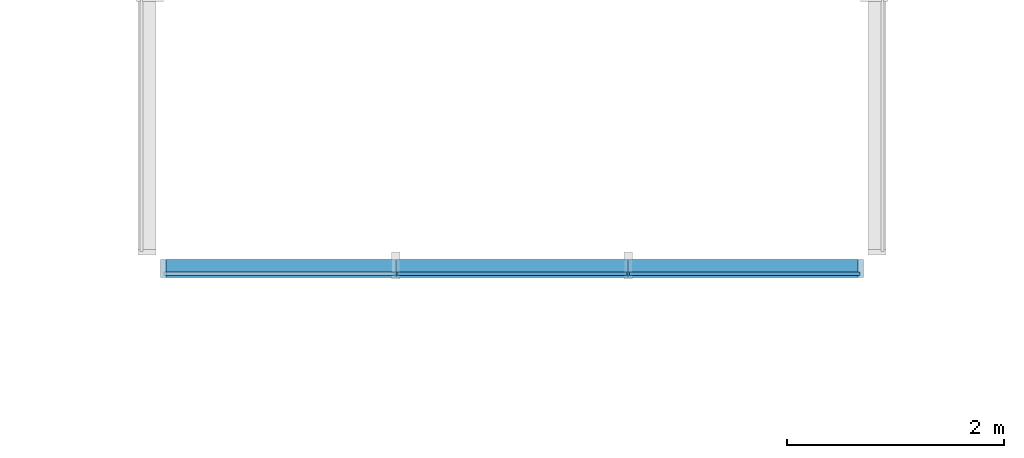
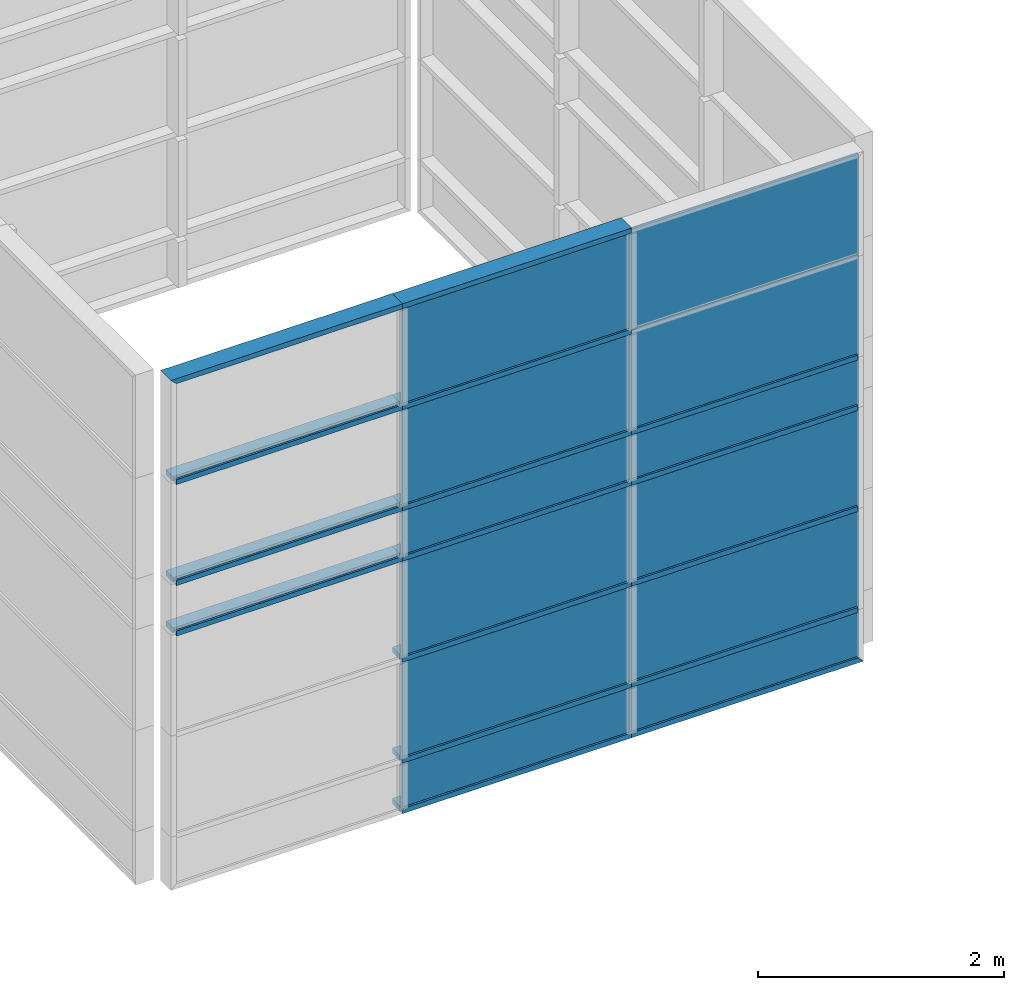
# One storey, part 6 of 19: 28 building element parts, 1 element without a shape of its own.
"""IFC4 building model written with IfcOpenShell, lengths in millimetres."""

from ifc_helpers import new_model, entity, si_unit, converted_unit, derived_unit, direction, frame, origin_with_axes, place, context, subcontext, project, spatial, triangles, material, element, aggregate, save


model = new_model("IFC4")

# Units and contexts
model_context = context("Model", 3, precision=1e-05, world=origin_with_axes(), true_north=direction((0.0, 1.0)))
body_context = subcontext(model_context, "Body", "Model", "MODEL_VIEW")
ifc_project = project(units=[si_unit("LENGTHUNIT", "METRE", prefix="MILLI"), si_unit("AREAUNIT", "SQUARE_METRE"), si_unit("VOLUMEUNIT", "CUBIC_METRE"), converted_unit("PLANEANGLEUNIT", "DEGREE", entity("IfcLengthMeasure", 0.017453), si_unit("PLANEANGLEUNIT", "RADIAN"), dimensions=[0, 0, 0, 0, 0, 0, 0]), si_unit("SOLIDANGLEUNIT", "STERADIAN"), si_unit("MASSUNIT", "GRAM"), si_unit("TIMEUNIT", "SECOND"), si_unit("THERMODYNAMICTEMPERATUREUNIT", "DEGREE_CELSIUS"), si_unit("LUMINOUSINTENSITYUNIT", "LUMEN"), si_unit("POWERUNIT", "WATT"), derived_unit("THERMALTRANSMITTANCEUNIT", [(si_unit("POWERUNIT", "WATT"), 1), (si_unit("THERMODYNAMICTEMPERATUREUNIT", "KELVIN"), -1), (si_unit("AREAUNIT", "SQUARE_METRE"), -1)])], contexts=[model_context])

# Site, building, storey
site_placement = place(None, origin_with_axes())
site = spatial("IfcSite", under=ifc_project, at=site_placement, Name="Default Site", CompositionType="ELEMENT")
building_placement = place(site_placement, origin_with_axes())
building = spatial("IfcBuilding", under=site, at=building_placement, Name="Default Building", CompositionType="ELEMENT")
storey_placement = place(building_placement, frame((0.0, 0.0, 3000.0), z_axis=(0.0, 0.0, 1.0), x_axis=(1.0, 0.0, 0.0)))
storey = spatial("IfcBuildingStorey", under=building, at=storey_placement, Name="EG - Story", CompositionType="ELEMENT", Elevation=3000.0)

# Curtain wall, building element parts
curtain_wall_placement = place(storey_placement, origin_with_axes())
curtain_wall = element("IfcCurtainWall", 1, at=curtain_wall_placement, inside=storey, Name="Fassade-010", PredefinedType="NOTDEFINED")
ifc_material_1 = material(Name="Normalglas")
building_element_part_1_placement = place(curtain_wall_placement, frame((70654.39916, -49972.947966, -4.5e-05), z_axis=(0.0, 0.0, 1.0), x_axis=(1.0, 0.0, 0.0)))
building_element_part_1 = element("IfcBuildingElementPart", 2, at=building_element_part_1_placement, material=ifc_material_1, Name="Normalglas", PredefinedType="NOTDEFINED", context=body_context, shape_type="Tessellation", body=[
    triangles([(3209.024, 15.0, 495.0), (1083.008, 15.0, 495.0), (1083.008, -14.999, 495.0), (3209.024, -14.999, 495.0), (3209.024, 15.0, 5.0), (1083.008, 15.0, 5.0), (1083.008, -14.999, 5.0), (3209.024, -14.999, 5.0)], [[1, 2, 3], [1, 3, 4], [1, 5, 6], [1, 6, 2], [2, 6, 7], [2, 7, 3], [4, 3, 7], [4, 7, 8], [5, 1, 4], [5, 4, 8], [6, 5, 8], [6, 8, 7]], closed=False),
])
building_element_part_2_placement = place(curtain_wall_placement, frame((70654.39916, -49972.947966, -4.5e-05), z_axis=(0.0, 0.0, 1.0), x_axis=(1.0, 0.0, 0.0)))
building_element_part_2 = element("IfcBuildingElementPart", 3, at=building_element_part_2_placement, material=ifc_material_1, Name="Normalglas", PredefinedType="NOTDEFINED", context=body_context, shape_type="Tessellation", body=[
    triangles([(5360.039, 15.0, 495.0), (3229.023, 15.0, 495.0), (3229.023, -14.999, 495.0), (5360.039, -14.999, 495.0), (5360.039, 15.0, 5.0), (3229.023, 15.0, 5.0), (3229.023, -14.999, 5.0), (5360.039, -14.999, 5.0)], [[1, 2, 3], [1, 3, 4], [1, 5, 6], [1, 6, 2], [2, 6, 7], [2, 7, 3], [4, 3, 7], [4, 7, 8], [5, 1, 4], [5, 4, 8], [6, 5, 8], [6, 8, 7]], closed=False),
])
building_element_part_3_placement = place(curtain_wall_placement, frame((70654.39916, -49972.947966, -4.5e-05), z_axis=(0.0, 0.0, 1.0), x_axis=(1.0, 0.0, 0.0)))
building_element_part_3 = element("IfcBuildingElementPart", 4, at=building_element_part_3_placement, material=ifc_material_1, Name="Normalglas", PredefinedType="NOTDEFINED", context=body_context, shape_type="Tessellation", body=[
    triangles([(3209.024, 15.0, 1495.0), (1083.008, 15.0, 1495.0), (1083.008, -14.999, 1495.0), (3209.024, -14.999, 1495.0), (3209.024, 15.0, 505.0), (1083.008, 15.0, 505.0), (1083.008, -14.999, 505.0), (3209.024, -14.999, 505.0)], [[1, 2, 3], [1, 3, 4], [1, 5, 6], [1, 6, 2], [2, 6, 7], [2, 7, 3], [4, 3, 7], [4, 7, 8], [5, 1, 4], [5, 4, 8], [6, 5, 8], [6, 8, 7]], closed=False),
])
building_element_part_4_placement = place(curtain_wall_placement, frame((70654.39916, -49972.947966, -4.5e-05), z_axis=(0.0, 0.0, 1.0), x_axis=(1.0, 0.0, 0.0)))
building_element_part_4 = element("IfcBuildingElementPart", 5, at=building_element_part_4_placement, material=ifc_material_1, Name="Normalglas", PredefinedType="NOTDEFINED", context=body_context, shape_type="Tessellation", body=[
    triangles([(5360.039, 15.0, 1495.0), (3229.023, 15.0, 1495.0), (3229.023, -14.999, 1495.0), (5360.039, -14.999, 1495.0), (5360.039, 15.0, 505.0), (3229.023, 15.0, 505.0), (3229.023, -14.999, 505.0), (5360.039, -14.999, 505.0)], [[1, 2, 3], [1, 3, 4], [1, 5, 6], [1, 6, 2], [2, 6, 7], [2, 7, 3], [4, 3, 7], [4, 7, 8], [5, 1, 4], [5, 4, 8], [6, 5, 8], [6, 8, 7]], closed=False),
])
building_element_part_5_placement = place(curtain_wall_placement, frame((70654.39916, -49972.947966, -4.5e-05), z_axis=(0.0, 0.0, 1.0), x_axis=(1.0, 0.0, 0.0)))
building_element_part_5 = element("IfcBuildingElementPart", 6, at=building_element_part_5_placement, material=ifc_material_1, Name="Normalglas", PredefinedType="NOTDEFINED", context=body_context, shape_type="Tessellation", body=[
    triangles([(3209.024, 15.0, 2495.0), (1083.008, 15.0, 2495.0), (1083.008, -14.999, 2495.0), (3209.024, -14.999, 2495.0), (3209.024, 15.0, 1505.0), (1083.008, 15.0, 1505.0), (1083.008, -14.999, 1505.0), (3209.024, -14.999, 1505.0)], [[1, 2, 3], [1, 3, 4], [1, 5, 6], [1, 6, 2], [2, 6, 7], [2, 7, 3], [4, 3, 7], [4, 7, 8], [5, 1, 4], [5, 4, 8], [6, 5, 8], [6, 8, 7]], closed=False),
])
building_element_part_6_placement = place(curtain_wall_placement, frame((70654.39916, -49972.947966, -4.5e-05), z_axis=(0.0, 0.0, 1.0), x_axis=(1.0, 0.0, 0.0)))
building_element_part_6 = element("IfcBuildingElementPart", 7, at=building_element_part_6_placement, material=ifc_material_1, Name="Normalglas", PredefinedType="NOTDEFINED", context=body_context, shape_type="Tessellation", body=[
    triangles([(5360.039, 15.0, 2495.0), (3229.023, 15.0, 2495.0), (3229.023, -14.999, 2495.0), (5360.039, -14.999, 2495.0), (5360.039, 15.0, 1505.0), (3229.023, 15.0, 1505.0), (3229.023, -14.999, 1505.0), (5360.039, -14.999, 1505.0)], [[1, 2, 3], [1, 3, 4], [1, 5, 6], [1, 6, 2], [2, 6, 7], [2, 7, 3], [4, 3, 7], [4, 7, 8], [5, 1, 4], [5, 4, 8], [6, 5, 8], [6, 8, 7]], closed=False),
])
building_element_part_7_placement = place(curtain_wall_placement, frame((70654.39916, -49972.947966, -4.5e-05), z_axis=(0.0, 0.0, 1.0), x_axis=(1.0, 0.0, 0.0)))
building_element_part_7 = element("IfcBuildingElementPart", 8, at=building_element_part_7_placement, material=ifc_material_1, Name="Normalglas", PredefinedType="NOTDEFINED", context=body_context, shape_type="Tessellation", body=[
    triangles([(3209.024, 15.0, 2995.0), (1083.008, 15.0, 2995.0), (1083.008, -14.999, 2995.0), (3209.024, -14.999, 2995.0), (3209.024, 15.0, 2505.0), (1083.008, 15.0, 2505.0), (1083.008, -14.999, 2505.0), (3209.024, -14.999, 2505.0)], [[1, 2, 3], [1, 3, 4], [1, 5, 6], [1, 6, 2], [2, 6, 7], [2, 7, 3], [4, 3, 7], [4, 7, 8], [5, 1, 4], [5, 4, 8], [6, 5, 8], [6, 8, 7]], closed=False),
])
building_element_part_8_placement = place(curtain_wall_placement, frame((70654.39916, -49972.947966, -4.5e-05), z_axis=(0.0, 0.0, 1.0), x_axis=(1.0, 0.0, 0.0)))
building_element_part_8 = element("IfcBuildingElementPart", 9, at=building_element_part_8_placement, material=ifc_material_1, Name="Normalglas", PredefinedType="NOTDEFINED", context=body_context, shape_type="Tessellation", body=[
    triangles([(5360.039, 15.0, 2995.0), (3229.023, 15.0, 2995.0), (3229.023, -14.999, 2995.0), (5360.039, -14.999, 2995.0), (5360.039, 15.0, 2505.0), (3229.023, 15.0, 2505.0), (3229.023, -14.999, 2505.0), (5360.039, -14.999, 2505.0)], [[1, 2, 3], [1, 3, 4], [1, 5, 6], [1, 6, 2], [2, 6, 7], [2, 7, 3], [4, 3, 7], [4, 7, 8], [5, 1, 4], [5, 4, 8], [6, 5, 8], [6, 8, 7]], closed=False),
])
building_element_part_9_placement = place(curtain_wall_placement, frame((70654.39916, -49972.947966, -4.5e-05), z_axis=(0.0, 0.0, 1.0), x_axis=(1.0, 0.0, 0.0)))
building_element_part_9 = element("IfcBuildingElementPart", 10, at=building_element_part_9_placement, material=ifc_material_1, Name="Normalglas", PredefinedType="NOTDEFINED", context=body_context, shape_type="Tessellation", body=[
    triangles([(3209.024, 15.0, 3995.0), (1083.008, 15.0, 3995.0), (1083.008, -14.999, 3995.0), (3209.024, -14.999, 3995.0), (3209.024, 15.0, 3005.0), (1083.008, 15.0, 3005.0), (1083.008, -14.999, 3005.0), (3209.024, -14.999, 3005.0)], [[1, 2, 3], [1, 3, 4], [1, 5, 6], [1, 6, 2], [2, 6, 7], [2, 7, 3], [4, 3, 7], [4, 7, 8], [5, 1, 4], [5, 4, 8], [6, 5, 8], [6, 8, 7]], closed=False),
])
building_element_part_10_placement = place(curtain_wall_placement, frame((70654.39916, -49972.947966, -4.5e-05), z_axis=(0.0, 0.0, 1.0), x_axis=(1.0, 0.0, 0.0)))
building_element_part_10 = element("IfcBuildingElementPart", 11, at=building_element_part_10_placement, material=ifc_material_1, Name="Normalglas", PredefinedType="NOTDEFINED", context=body_context, shape_type="Tessellation", body=[
    triangles([(5360.039, 15.0, 3995.0), (3229.023, 15.0, 3995.0), (3229.023, -14.999, 3995.0), (5360.039, -14.999, 3995.0), (5360.039, 15.0, 3005.0), (3229.023, 15.0, 3005.0), (3229.023, -14.999, 3005.0), (5360.039, -14.999, 3005.0)], [[1, 2, 3], [1, 3, 4], [1, 5, 6], [1, 6, 2], [2, 6, 7], [2, 7, 3], [4, 3, 7], [4, 7, 8], [5, 1, 4], [5, 4, 8], [6, 5, 8], [6, 8, 7]], closed=False),
])
building_element_part_11_placement = place(curtain_wall_placement, frame((70654.39916, -49972.947966, -4.5e-05), z_axis=(0.0, 0.0, 1.0), x_axis=(1.0, 0.0, 0.0)))
building_element_part_11 = element("IfcBuildingElementPart", 12, at=building_element_part_11_placement, material=ifc_material_1, Name="Normalglas", PredefinedType="NOTDEFINED", context=body_context, shape_type="Tessellation", body=[
    triangles([(3209.024, 15.0, 4995.0), (1083.008, 15.0, 4995.0), (1083.008, -14.999, 4995.0), (3209.024, -14.999, 4995.0), (3209.024, 15.0, 4005.0), (1083.008, 15.0, 4005.0), (1083.008, -14.999, 4005.0), (3209.024, -14.999, 4005.0)], [[1, 2, 3], [1, 3, 4], [1, 5, 6], [1, 6, 2], [2, 6, 7], [2, 7, 3], [4, 3, 7], [4, 7, 8], [5, 1, 4], [5, 4, 8], [6, 5, 8], [6, 8, 7]], closed=False),
])
building_element_part_12_placement = place(curtain_wall_placement, frame((70654.39916, -49972.947966, -4.5e-05), z_axis=(0.0, 0.0, 1.0), x_axis=(1.0, 0.0, 0.0)))
building_element_part_12 = element("IfcBuildingElementPart", 13, at=building_element_part_12_placement, material=ifc_material_1, Name="Normalglas", PredefinedType="NOTDEFINED", context=body_context, shape_type="Tessellation", body=[
    triangles([(5360.039, 15.0, 4995.0), (3229.023, 15.0, 4995.0), (3229.023, -14.999, 4995.0), (5360.039, -14.999, 4995.0), (5360.039, 15.0, 4005.0), (3229.023, 15.0, 4005.0), (3229.023, -14.999, 4005.0), (5360.039, -14.999, 4005.0)], [[1, 2, 3], [1, 3, 4], [1, 5, 6], [1, 6, 2], [2, 6, 7], [2, 7, 3], [4, 3, 7], [4, 7, 8], [5, 1, 4], [5, 4, 8], [6, 5, 8], [6, 8, 7]], closed=False),
])
ifc_material_2 = material(Name="Blech")
building_element_part_13_placement = place(curtain_wall_placement, frame((70654.39916, -49972.947966, -4.5e-05), z_axis=(0.0, 0.0, 1.0), x_axis=(1.0, 0.0, 0.0)))
building_element_part_13 = element("IfcBuildingElementPart", 14, at=building_element_part_13_placement, material=ifc_material_2, Name="Blech", PredefinedType="NOTDEFINED", context=body_context, shape_type="Tessellation", body=[
    triangles([(3219.023, 15.0, 25.0), (3219.023, 133.0, 25.0), (3219.023, 15.0, 5.0), (3219.023, 133.0, -24.999), (3219.023, -14.999, 5.0), (3219.023, -34.999, -24.999), (3219.023, -14.999, 25.0), (3219.023, -34.999, 25.0), (1073.008, 15.0, 5.0), (1073.008, -14.999, 5.0), (1073.008, -14.999, 25.0), (1073.008, -34.999, 25.0), (1073.008, -34.999, -24.999), (1073.008, 133.0, -24.999), (1073.008, 133.0, 25.0), (1073.008, 15.0, 25.0)], [[1, 2, 3], [3, 2, 4], [3, 4, 5], [5, 4, 6], [5, 6, 7], [7, 6, 8], [5, 3, 9], [5, 9, 10], [11, 7, 5], [11, 5, 10], [7, 11, 12], [7, 12, 8], [13, 6, 8], [13, 8, 12], [14, 4, 6], [14, 6, 13], [15, 2, 4], [15, 4, 14], [16, 1, 2], [16, 2, 15], [3, 1, 16], [3, 16, 9], [16, 15, 9], [9, 15, 14], [9, 14, 10], [10, 14, 13], [10, 13, 11], [11, 13, 12]], closed=False),
])
building_element_part_14_placement = place(curtain_wall_placement, frame((70654.39916, -49972.947966, -4.5e-05), z_axis=(0.0, 0.0, 1.0), x_axis=(1.0, 0.0, 0.0)))
building_element_part_14 = element("IfcBuildingElementPart", 15, at=building_element_part_14_placement, material=ifc_material_2, Name="Blech", PredefinedType="NOTDEFINED", context=body_context, shape_type="Tessellation", body=[
    triangles([(5360.039, -14.999, 5.0), (5360.039, 15.0, 5.0), (5390.039, 133.0, -24.999), (5390.039, -34.999, -24.999), (5340.039, -34.999, 25.0), (5340.039, -14.999, 25.0), (5340.039, 15.0, 25.0), (5340.039, 133.0, 25.0), (3219.023, 15.0, 5.0), (3219.023, -14.999, 5.0), (3219.023, -14.999, 25.0), (3219.023, -34.999, 25.0), (3219.023, -34.999, -24.999), (3219.023, 133.0, -24.999), (3219.023, 133.0, 25.0), (3219.023, 15.0, 25.0)], [[1, 2, 3], [1, 3, 4], [1, 4, 5], [1, 5, 6], [7, 8, 3], [7, 3, 2], [1, 2, 9], [1, 9, 10], [11, 6, 1], [11, 1, 10], [6, 11, 12], [6, 12, 5], [13, 4, 5], [13, 5, 12], [14, 3, 4], [14, 4, 13], [15, 8, 3], [15, 3, 14], [16, 7, 8], [16, 8, 15], [2, 7, 16], [2, 16, 9], [16, 15, 9], [9, 15, 14], [9, 14, 10], [10, 14, 13], [10, 13, 11], [11, 13, 12]], closed=False),
])
building_element_part_15_placement = place(curtain_wall_placement, frame((70654.39916, -49972.947966, -4.5e-05), z_axis=(0.0, 0.0, 1.0), x_axis=(1.0, 0.0, 0.0)))
building_element_part_15 = element("IfcBuildingElementPart", 16, at=building_element_part_15_placement, material=ifc_material_2, Name="Blech", PredefinedType="NOTDEFINED", context=body_context, shape_type="Tessellation", body=[
    triangles([(3219.023, 133.0, 525.0), (3219.023, 15.0, 525.0), (3219.023, 133.0, 475.0), (3219.023, 15.0, 505.0), (3219.023, 15.0, 495.0), (3219.023, -14.999, 505.0), (3219.023, -14.999, 495.0), (3219.023, -14.999, 475.0), (3219.023, -14.999, 525.0), (3219.023, -34.999, 525.0), (3219.023, -34.999, 475.0), (3219.023, 15.0, 475.0), (1073.008, 15.0, 495.0), (1073.008, 15.0, 475.0), (1073.008, 133.0, 475.0), (1073.008, 133.0, 525.0), (1073.008, 15.0, 525.0), (1073.008, 15.0, 505.0), (1073.008, -14.999, 505.0), (1073.008, -14.999, 525.0), (1073.008, -34.999, 525.0), (1073.008, -34.999, 475.0), (1073.008, -14.999, 475.0), (1073.008, -14.999, 495.0)], [[1, 2, 3], [3, 2, 4], [3, 4, 5], [5, 4, 6], [5, 6, 7], [8, 9, 10], [8, 10, 11], [3, 5, 12], [12, 5, 13], [12, 13, 14], [12, 14, 15], [12, 15, 3], [1, 3, 15], [1, 15, 16], [2, 1, 16], [2, 16, 17], [2, 17, 18], [2, 18, 4], [4, 18, 19], [4, 19, 6], [9, 6, 19], [9, 19, 20], [20, 21, 10], [20, 10, 9], [11, 10, 21], [11, 21, 22], [23, 8, 11], [23, 11, 22], [7, 8, 23], [7, 23, 24], [5, 7, 24], [5, 24, 13], [15, 14, 16], [16, 14, 13], [16, 13, 18], [18, 13, 24], [18, 24, 19], [20, 23, 22], [20, 22, 21], [16, 18, 17]], closed=False),
])
building_element_part_16_placement = place(curtain_wall_placement, frame((70654.39916, -49972.947966, -4.5e-05), z_axis=(0.0, 0.0, 1.0), x_axis=(1.0, 0.0, 0.0)))
building_element_part_16 = element("IfcBuildingElementPart", 17, at=building_element_part_16_placement, material=ifc_material_2, Name="Blech", PredefinedType="NOTDEFINED", context=body_context, shape_type="Tessellation", body=[
    triangles([(5340.039, 133.0, 525.0), (5340.039, 15.0, 525.0), (5340.039, 133.0, 475.0), (5340.039, 15.0, 505.0), (5340.039, 15.0, 495.0), (5340.039, -14.999, 505.0), (5340.039, -14.999, 495.0), (5340.039, -14.999, 475.0), (5340.039, -14.999, 525.0), (5340.039, -34.999, 525.0), (5340.039, -34.999, 475.0), (5340.039, 15.0, 475.0), (3219.023, 15.0, 495.0), (3219.023, 15.0, 475.0), (3219.023, 133.0, 475.0), (3219.023, 133.0, 525.0), (3219.023, 15.0, 525.0), (3219.023, 15.0, 505.0), (3219.023, -14.999, 505.0), (3219.023, -14.999, 525.0), (3219.023, -34.999, 525.0), (3219.023, -34.999, 475.0), (3219.023, -14.999, 475.0), (3219.023, -14.999, 495.0)], [[1, 2, 3], [3, 2, 4], [3, 4, 5], [5, 4, 6], [5, 6, 7], [8, 9, 10], [8, 10, 11], [3, 5, 12], [12, 5, 13], [12, 13, 14], [12, 14, 15], [12, 15, 3], [1, 3, 15], [1, 15, 16], [2, 1, 16], [2, 16, 17], [2, 17, 18], [2, 18, 4], [4, 18, 19], [4, 19, 6], [9, 6, 19], [9, 19, 20], [20, 21, 10], [20, 10, 9], [11, 10, 21], [11, 21, 22], [23, 8, 11], [23, 11, 22], [7, 8, 23], [7, 23, 24], [5, 7, 24], [5, 24, 13], [15, 14, 16], [16, 14, 13], [16, 13, 18], [18, 13, 24], [18, 24, 19], [20, 23, 22], [20, 22, 21], [16, 18, 17]], closed=False),
])
building_element_part_17_placement = place(curtain_wall_placement, frame((70654.39916, -49972.947966, -4.5e-05), z_axis=(0.0, 0.0, 1.0), x_axis=(1.0, 0.0, 0.0)))
building_element_part_17 = element("IfcBuildingElementPart", 18, at=building_element_part_17_placement, material=ifc_material_2, Name="Blech", PredefinedType="NOTDEFINED", context=body_context, shape_type="Tessellation", body=[
    triangles([(3219.023, 133.0, 1525.0), (3219.023, 15.0, 1525.0), (3219.023, 133.0, 1475.0), (3219.023, 15.0, 1505.0), (3219.023, 15.0, 1495.0), (3219.023, -14.999, 1505.0), (3219.023, -14.999, 1495.0), (3219.023, -14.999, 1475.0), (3219.023, -14.999, 1525.0), (3219.023, -34.999, 1525.0), (3219.023, -34.999, 1475.0), (3219.023, 15.0, 1475.0), (1073.008, 15.0, 1495.0), (1073.008, 15.0, 1475.0), (1073.008, 133.0, 1475.0), (1073.008, 133.0, 1525.0), (1073.008, 15.0, 1525.0), (1073.008, 15.0, 1505.0), (1073.008, -14.999, 1505.0), (1073.008, -14.999, 1525.0), (1073.008, -34.999, 1525.0), (1073.008, -34.999, 1475.0), (1073.008, -14.999, 1475.0), (1073.008, -14.999, 1495.0)], [[1, 2, 3], [3, 2, 4], [3, 4, 5], [5, 4, 6], [5, 6, 7], [8, 9, 10], [8, 10, 11], [3, 5, 12], [12, 5, 13], [12, 13, 14], [12, 14, 15], [12, 15, 3], [1, 3, 15], [1, 15, 16], [2, 1, 16], [2, 16, 17], [2, 17, 18], [2, 18, 4], [4, 18, 19], [4, 19, 6], [9, 6, 19], [9, 19, 20], [20, 21, 10], [20, 10, 9], [11, 10, 21], [11, 21, 22], [23, 8, 11], [23, 11, 22], [7, 8, 23], [7, 23, 24], [5, 7, 24], [5, 24, 13], [15, 14, 16], [16, 14, 13], [16, 13, 18], [18, 13, 24], [18, 24, 19], [20, 23, 22], [20, 22, 21], [16, 18, 17]], closed=False),
])
building_element_part_18_placement = place(curtain_wall_placement, frame((70654.39916, -49972.947966, -4.5e-05), z_axis=(0.0, 0.0, 1.0), x_axis=(1.0, 0.0, 0.0)))
building_element_part_18 = element("IfcBuildingElementPart", 19, at=building_element_part_18_placement, material=ifc_material_2, Name="Blech", PredefinedType="NOTDEFINED", context=body_context, shape_type="Tessellation", body=[
    triangles([(5340.039, 133.0, 1525.0), (5340.039, 15.0, 1525.0), (5340.039, 133.0, 1475.0), (5340.039, 15.0, 1505.0), (5340.039, 15.0, 1495.0), (5340.039, -14.999, 1505.0), (5340.039, -14.999, 1495.0), (5340.039, -14.999, 1475.0), (5340.039, -14.999, 1525.0), (5340.039, -34.999, 1525.0), (5340.039, -34.999, 1475.0), (5340.039, 15.0, 1475.0), (3219.023, 15.0, 1495.0), (3219.023, 15.0, 1475.0), (3219.023, 133.0, 1475.0), (3219.023, 133.0, 1525.0), (3219.023, 15.0, 1525.0), (3219.023, 15.0, 1505.0), (3219.023, -14.999, 1505.0), (3219.023, -14.999, 1525.0), (3219.023, -34.999, 1525.0), (3219.023, -34.999, 1475.0), (3219.023, -14.999, 1475.0), (3219.023, -14.999, 1495.0)], [[1, 2, 3], [3, 2, 4], [3, 4, 5], [5, 4, 6], [5, 6, 7], [8, 9, 10], [8, 10, 11], [3, 5, 12], [12, 5, 13], [12, 13, 14], [12, 14, 15], [12, 15, 3], [1, 3, 15], [1, 15, 16], [2, 1, 16], [2, 16, 17], [2, 17, 18], [2, 18, 4], [4, 18, 19], [4, 19, 6], [9, 6, 19], [9, 19, 20], [20, 21, 10], [20, 10, 9], [11, 10, 21], [11, 21, 22], [23, 8, 11], [23, 11, 22], [7, 8, 23], [7, 23, 24], [5, 7, 24], [5, 24, 13], [15, 14, 16], [16, 14, 13], [16, 13, 18], [18, 13, 24], [18, 24, 19], [20, 23, 22], [20, 22, 21], [16, 18, 17]], closed=False),
])
building_element_part_19_placement = place(curtain_wall_placement, frame((70654.39916, -49972.947966, -4.5e-05), z_axis=(0.0, 0.0, 1.0), x_axis=(1.0, 0.0, 0.0)))
building_element_part_19 = element("IfcBuildingElementPart", 20, at=building_element_part_19_placement, material=ifc_material_2, Name="Blech", PredefinedType="NOTDEFINED", context=body_context, shape_type="Tessellation", body=[
    triangles([(1073.008, 133.0, 2525.0), (1073.008, 15.0, 2525.0), (1073.008, 133.0, 2475.0), (1073.008, 15.0, 2505.0), (1073.008, 15.0, 2495.0), (1073.008, -14.999, 2505.0), (1073.008, -14.999, 2495.0), (1073.008, -14.999, 2475.0), (1073.008, -14.999, 2525.0), (1073.008, -34.999, 2525.0), (1073.008, -34.999, 2475.0), (1073.008, 15.0, 2475.0), (-1048.007, 15.0, 2495.0), (-1048.007, 15.0, 2475.0), (-1048.007, 133.0, 2475.0), (-1048.007, 133.0, 2525.0), (-1048.007, 15.0, 2525.0), (-1048.007, 15.0, 2505.0), (-1048.007, -14.999, 2505.0), (-1048.007, -14.999, 2525.0), (-1048.007, -34.999, 2525.0), (-1048.007, -34.999, 2475.0), (-1048.007, -14.999, 2475.0), (-1048.007, -14.999, 2495.0)], [[1, 2, 3], [3, 2, 4], [3, 4, 5], [5, 4, 6], [5, 6, 7], [8, 9, 10], [8, 10, 11], [3, 5, 12], [12, 5, 13], [12, 13, 14], [12, 14, 15], [12, 15, 3], [3, 15, 16], [3, 16, 1], [2, 1, 16], [2, 16, 17], [2, 17, 18], [2, 18, 4], [4, 18, 19], [4, 19, 6], [9, 6, 19], [9, 19, 20], [20, 21, 10], [20, 10, 9], [10, 21, 22], [10, 22, 11], [23, 8, 11], [23, 11, 22], [7, 8, 23], [7, 23, 24], [5, 7, 24], [5, 24, 13], [15, 14, 16], [16, 14, 13], [16, 13, 18], [18, 13, 24], [18, 24, 19], [20, 23, 22], [20, 22, 21], [16, 18, 17]], closed=False),
])
building_element_part_20_placement = place(curtain_wall_placement, frame((70654.39916, -49972.947966, -4.5e-05), z_axis=(0.0, 0.0, 1.0), x_axis=(1.0, 0.0, 0.0)))
building_element_part_20 = element("IfcBuildingElementPart", 21, at=building_element_part_20_placement, material=ifc_material_2, Name="Blech", PredefinedType="NOTDEFINED", context=body_context, shape_type="Tessellation", body=[
    triangles([(3219.023, 133.0, 2525.0), (3219.023, 15.0, 2525.0), (3219.023, 133.0, 2475.0), (3219.023, 15.0, 2505.0), (3219.023, 15.0, 2495.0), (3219.023, -14.999, 2505.0), (3219.023, -14.999, 2495.0), (3219.023, -14.999, 2475.0), (3219.023, -14.999, 2525.0), (3219.023, -34.999, 2525.0), (3219.023, -34.999, 2475.0), (3219.023, 15.0, 2475.0), (1073.008, 15.0, 2495.0), (1073.008, 15.0, 2475.0), (1073.008, 133.0, 2475.0), (1073.008, 133.0, 2525.0), (1073.008, 15.0, 2525.0), (1073.008, 15.0, 2505.0), (1073.008, -14.999, 2505.0), (1073.008, -14.999, 2525.0), (1073.008, -34.999, 2525.0), (1073.008, -34.999, 2475.0), (1073.008, -14.999, 2475.0), (1073.008, -14.999, 2495.0)], [[1, 2, 3], [3, 2, 4], [3, 4, 5], [5, 4, 6], [5, 6, 7], [8, 9, 10], [8, 10, 11], [3, 5, 12], [12, 5, 13], [12, 13, 14], [12, 14, 15], [12, 15, 3], [1, 3, 15], [1, 15, 16], [2, 1, 16], [2, 16, 17], [2, 17, 18], [2, 18, 4], [4, 18, 19], [4, 19, 6], [9, 6, 19], [9, 19, 20], [20, 21, 10], [20, 10, 9], [11, 10, 21], [11, 21, 22], [23, 8, 11], [23, 11, 22], [7, 8, 23], [7, 23, 24], [5, 7, 24], [5, 24, 13], [15, 14, 16], [16, 14, 13], [16, 13, 18], [18, 13, 24], [18, 24, 19], [20, 23, 22], [20, 22, 21], [16, 18, 17]], closed=False),
])
building_element_part_21_placement = place(curtain_wall_placement, frame((70654.39916, -49972.947966, -4.5e-05), z_axis=(0.0, 0.0, 1.0), x_axis=(1.0, 0.0, 0.0)))
building_element_part_21 = element("IfcBuildingElementPart", 22, at=building_element_part_21_placement, material=ifc_material_2, Name="Blech", PredefinedType="NOTDEFINED", context=body_context, shape_type="Tessellation", body=[
    triangles([(5340.039, 133.0, 2525.0), (5340.039, 15.0, 2525.0), (5340.039, 133.0, 2475.0), (5340.039, 15.0, 2505.0), (5340.039, 15.0, 2495.0), (5340.039, -14.999, 2505.0), (5340.039, -14.999, 2495.0), (5340.039, -14.999, 2475.0), (5340.039, -14.999, 2525.0), (5340.039, -34.999, 2525.0), (5340.039, -34.999, 2475.0), (5340.039, 15.0, 2475.0), (3219.023, 15.0, 2495.0), (3219.023, 15.0, 2475.0), (3219.023, 133.0, 2475.0), (3219.023, 133.0, 2525.0), (3219.023, 15.0, 2525.0), (3219.023, 15.0, 2505.0), (3219.023, -14.999, 2505.0), (3219.023, -14.999, 2525.0), (3219.023, -34.999, 2525.0), (3219.023, -34.999, 2475.0), (3219.023, -14.999, 2475.0), (3219.023, -14.999, 2495.0)], [[1, 2, 3], [3, 2, 4], [3, 4, 5], [5, 4, 6], [5, 6, 7], [8, 9, 10], [8, 10, 11], [3, 5, 12], [12, 5, 13], [12, 13, 14], [12, 14, 15], [12, 15, 3], [1, 3, 15], [1, 15, 16], [2, 1, 16], [2, 16, 17], [2, 17, 18], [2, 18, 4], [4, 18, 19], [4, 19, 6], [9, 6, 19], [9, 19, 20], [20, 21, 10], [20, 10, 9], [11, 10, 21], [11, 21, 22], [23, 8, 11], [23, 11, 22], [7, 8, 23], [7, 23, 24], [5, 7, 24], [5, 24, 13], [15, 14, 16], [16, 14, 13], [16, 13, 18], [18, 13, 24], [18, 24, 19], [20, 23, 22], [20, 22, 21], [16, 18, 17]], closed=False),
])
building_element_part_22_placement = place(curtain_wall_placement, frame((70654.39916, -49972.947966, -4.5e-05), z_axis=(0.0, 0.0, 1.0), x_axis=(1.0, 0.0, 0.0)))
building_element_part_22 = element("IfcBuildingElementPart", 23, at=building_element_part_22_placement, material=ifc_material_2, Name="Blech", PredefinedType="NOTDEFINED", context=body_context, shape_type="Tessellation", body=[
    triangles([(1073.008, 133.0, 3025.0), (1073.008, 15.0, 3025.0), (1073.008, 133.0, 2975.0), (1073.008, 15.0, 3005.0), (1073.008, 15.0, 2995.0), (1073.008, -14.999, 3005.0), (1073.008, -14.999, 2995.0), (1073.008, -14.999, 2975.0), (1073.008, -14.999, 3025.0), (1073.008, -34.999, 3025.0), (1073.008, -34.999, 2975.0), (1073.008, 15.0, 2975.0), (-1048.007, 15.0, 2995.0), (-1048.007, 15.0, 2975.0), (-1048.007, 133.0, 2975.0), (-1048.007, 133.0, 3025.0), (-1048.007, 15.0, 3025.0), (-1048.007, 15.0, 3005.0), (-1048.007, -14.999, 3005.0), (-1048.007, -14.999, 3025.0), (-1048.007, -34.999, 3025.0), (-1048.007, -34.999, 2975.0), (-1048.007, -14.999, 2975.0), (-1048.007, -14.999, 2995.0)], [[1, 2, 3], [3, 2, 4], [3, 4, 5], [5, 4, 6], [5, 6, 7], [8, 9, 10], [8, 10, 11], [3, 5, 12], [12, 5, 13], [12, 13, 14], [12, 14, 15], [12, 15, 3], [3, 15, 16], [3, 16, 1], [2, 1, 16], [2, 16, 17], [2, 17, 18], [2, 18, 4], [4, 18, 19], [4, 19, 6], [9, 6, 19], [9, 19, 20], [20, 21, 10], [20, 10, 9], [10, 21, 22], [10, 22, 11], [23, 8, 11], [23, 11, 22], [7, 8, 23], [7, 23, 24], [5, 7, 24], [5, 24, 13], [15, 14, 16], [16, 14, 13], [16, 13, 18], [18, 13, 24], [18, 24, 19], [20, 23, 22], [20, 22, 21], [16, 18, 17]], closed=False),
])
building_element_part_23_placement = place(curtain_wall_placement, frame((70654.39916, -49972.947966, -4.5e-05), z_axis=(0.0, 0.0, 1.0), x_axis=(1.0, 0.0, 0.0)))
building_element_part_23 = element("IfcBuildingElementPart", 24, at=building_element_part_23_placement, material=ifc_material_2, Name="Blech", PredefinedType="NOTDEFINED", context=body_context, shape_type="Tessellation", body=[
    triangles([(3219.023, 133.0, 3025.0), (3219.023, 15.0, 3025.0), (3219.023, 133.0, 2975.0), (3219.023, 15.0, 3005.0), (3219.023, 15.0, 2995.0), (3219.023, -14.999, 3005.0), (3219.023, -14.999, 2995.0), (3219.023, -14.999, 2975.0), (3219.023, -14.999, 3025.0), (3219.023, -34.999, 3025.0), (3219.023, -34.999, 2975.0), (3219.023, 15.0, 2975.0), (1073.008, 15.0, 2995.0), (1073.008, 15.0, 2975.0), (1073.008, 133.0, 2975.0), (1073.008, 133.0, 3025.0), (1073.008, 15.0, 3025.0), (1073.008, 15.0, 3005.0), (1073.008, -14.999, 3005.0), (1073.008, -14.999, 3025.0), (1073.008, -34.999, 3025.0), (1073.008, -34.999, 2975.0), (1073.008, -14.999, 2975.0), (1073.008, -14.999, 2995.0)], [[1, 2, 3], [3, 2, 4], [3, 4, 5], [5, 4, 6], [5, 6, 7], [8, 9, 10], [8, 10, 11], [3, 5, 12], [12, 5, 13], [12, 13, 14], [12, 14, 15], [12, 15, 3], [1, 3, 15], [1, 15, 16], [2, 1, 16], [2, 16, 17], [2, 17, 18], [2, 18, 4], [4, 18, 19], [4, 19, 6], [9, 6, 19], [9, 19, 20], [20, 21, 10], [20, 10, 9], [11, 10, 21], [11, 21, 22], [23, 8, 11], [23, 11, 22], [7, 8, 23], [7, 23, 24], [5, 7, 24], [5, 24, 13], [15, 14, 16], [16, 14, 13], [16, 13, 18], [18, 13, 24], [18, 24, 19], [20, 23, 22], [20, 22, 21], [16, 18, 17]], closed=False),
])
building_element_part_24_placement = place(curtain_wall_placement, frame((70654.39916, -49972.947966, -4.5e-05), z_axis=(0.0, 0.0, 1.0), x_axis=(1.0, 0.0, 0.0)))
building_element_part_24 = element("IfcBuildingElementPart", 25, at=building_element_part_24_placement, material=ifc_material_2, Name="Blech", PredefinedType="NOTDEFINED", context=body_context, shape_type="Tessellation", body=[
    triangles([(5340.039, 133.0, 3025.0), (5340.039, 15.0, 3025.0), (5340.039, 133.0, 2975.0), (5340.039, 15.0, 3005.0), (5340.039, 15.0, 2995.0), (5340.039, -14.999, 3005.0), (5340.039, -14.999, 2995.0), (5340.039, -14.999, 2975.0), (5340.039, -14.999, 3025.0), (5340.039, -34.999, 3025.0), (5340.039, -34.999, 2975.0), (5340.039, 15.0, 2975.0), (3219.023, 15.0, 2995.0), (3219.023, 15.0, 2975.0), (3219.023, 133.0, 2975.0), (3219.023, 133.0, 3025.0), (3219.023, 15.0, 3025.0), (3219.023, 15.0, 3005.0), (3219.023, -14.999, 3005.0), (3219.023, -14.999, 3025.0), (3219.023, -34.999, 3025.0), (3219.023, -34.999, 2975.0), (3219.023, -14.999, 2975.0), (3219.023, -14.999, 2995.0)], [[1, 2, 3], [3, 2, 4], [3, 4, 5], [5, 4, 6], [5, 6, 7], [8, 9, 10], [8, 10, 11], [3, 5, 12], [12, 5, 13], [12, 13, 14], [12, 14, 15], [12, 15, 3], [1, 3, 15], [1, 15, 16], [2, 1, 16], [2, 16, 17], [2, 17, 18], [2, 18, 4], [4, 18, 19], [4, 19, 6], [9, 6, 19], [9, 19, 20], [20, 21, 10], [20, 10, 9], [11, 10, 21], [11, 21, 22], [23, 8, 11], [23, 11, 22], [7, 8, 23], [7, 23, 24], [5, 7, 24], [5, 24, 13], [15, 14, 16], [16, 14, 13], [16, 13, 18], [18, 13, 24], [18, 24, 19], [20, 23, 22], [20, 22, 21], [16, 18, 17]], closed=False),
])
building_element_part_25_placement = place(curtain_wall_placement, frame((70654.39916, -49972.947966, -4.5e-05), z_axis=(0.0, 0.0, 1.0), x_axis=(1.0, 0.0, 0.0)))
building_element_part_25 = element("IfcBuildingElementPart", 26, at=building_element_part_25_placement, material=ifc_material_2, Name="Blech", PredefinedType="NOTDEFINED", context=body_context, shape_type="Tessellation", body=[
    triangles([(1073.008, 133.0, 4025.0), (1073.008, 15.0, 4025.0), (1073.008, 133.0, 3975.0), (1073.008, 15.0, 4005.0), (1073.008, 15.0, 3995.0), (1073.008, -14.999, 4005.0), (1073.008, -14.999, 3995.0), (1073.008, -14.999, 3975.0), (1073.008, -14.999, 4025.0), (1073.008, -34.999, 4025.0), (1073.008, -34.999, 3975.0), (1073.008, 15.0, 3975.0), (-1048.007, 15.0, 3995.0), (-1048.007, 15.0, 3975.0), (-1048.007, 133.0, 3975.0), (-1048.007, 133.0, 4025.0), (-1048.007, 15.0, 4025.0), (-1048.007, 15.0, 4005.0), (-1048.007, -14.999, 4005.0), (-1048.007, -14.999, 4025.0), (-1048.007, -34.999, 4025.0), (-1048.007, -34.999, 3975.0), (-1048.007, -14.999, 3975.0), (-1048.007, -14.999, 3995.0)], [[1, 2, 3], [3, 2, 4], [3, 4, 5], [5, 4, 6], [5, 6, 7], [8, 9, 10], [8, 10, 11], [3, 5, 12], [12, 5, 13], [12, 13, 14], [12, 14, 15], [12, 15, 3], [3, 15, 16], [3, 16, 1], [2, 1, 16], [2, 16, 17], [2, 17, 18], [2, 18, 4], [4, 18, 19], [4, 19, 6], [9, 6, 19], [9, 19, 20], [20, 21, 10], [20, 10, 9], [10, 21, 22], [10, 22, 11], [23, 8, 11], [23, 11, 22], [7, 8, 23], [7, 23, 24], [5, 7, 24], [5, 24, 13], [15, 14, 16], [16, 14, 13], [16, 13, 18], [18, 13, 24], [18, 24, 19], [20, 23, 22], [20, 22, 21], [16, 18, 17]], closed=False),
])
building_element_part_26_placement = place(curtain_wall_placement, frame((70654.39916, -49972.947966, -4.5e-05), z_axis=(0.0, 0.0, 1.0), x_axis=(1.0, 0.0, 0.0)))
building_element_part_26 = element("IfcBuildingElementPart", 27, at=building_element_part_26_placement, material=ifc_material_2, Name="Blech", PredefinedType="NOTDEFINED", context=body_context, shape_type="Tessellation", body=[
    triangles([(1073.008, 15.0, 4975.0), (1073.008, 133.0, 4975.0), (1073.008, 15.0, 4995.0), (1073.008, 133.0, 5025.0), (1073.008, -14.999, 4995.0), (1073.008, -34.999, 5025.0), (1073.008, -14.999, 4975.0), (1073.008, -34.999, 4975.0), (-1068.007, 15.0, 4995.0), (-1048.007, 15.0, 4975.0), (-1048.007, 133.0, 4975.0), (-1098.007, 133.0, 5025.0), (-1098.007, -34.999, 5025.0), (-1048.007, -34.999, 4975.0), (-1048.007, -14.999, 4975.0), (-1068.007, -14.999, 4995.0)], [[1, 2, 3], [3, 2, 4], [3, 4, 5], [5, 4, 6], [5, 6, 7], [7, 6, 8], [3, 9, 10], [3, 10, 1], [10, 11, 2], [10, 2, 1], [2, 11, 12], [2, 12, 4], [4, 12, 13], [4, 13, 6], [6, 13, 14], [6, 14, 8], [7, 8, 14], [7, 14, 15], [15, 16, 5], [15, 5, 7], [5, 16, 9], [5, 9, 3], [10, 11, 9], [9, 11, 12], [9, 12, 16], [16, 12, 13], [16, 13, 15], [15, 13, 14]], closed=False),
])
building_element_part_27_placement = place(curtain_wall_placement, frame((70654.39916, -49972.947966, -4.5e-05), z_axis=(0.0, 0.0, 1.0), x_axis=(1.0, 0.0, 0.0)))
building_element_part_27 = element("IfcBuildingElementPart", 28, at=building_element_part_27_placement, material=ifc_material_2, Name="Blech", PredefinedType="NOTDEFINED", context=body_context, shape_type="Tessellation", body=[
    triangles([(3219.023, 133.0, 4025.0), (3219.023, 15.0, 4025.0), (3219.023, 133.0, 3975.0), (3219.023, 15.0, 4005.0), (3219.023, 15.0, 3995.0), (3219.023, -14.999, 4005.0), (3219.023, -14.999, 3995.0), (3219.023, -14.999, 3975.0), (3219.023, -14.999, 4025.0), (3219.023, -34.999, 4025.0), (3219.023, -34.999, 3975.0), (3219.023, 15.0, 3975.0), (1073.008, 15.0, 3995.0), (1073.008, 15.0, 3975.0), (1073.008, 133.0, 3975.0), (1073.008, 133.0, 4025.0), (1073.008, 15.0, 4025.0), (1073.008, 15.0, 4005.0), (1073.008, -14.999, 4005.0), (1073.008, -14.999, 4025.0), (1073.008, -34.999, 4025.0), (1073.008, -34.999, 3975.0), (1073.008, -14.999, 3975.0), (1073.008, -14.999, 3995.0)], [[1, 2, 3], [3, 2, 4], [3, 4, 5], [5, 4, 6], [5, 6, 7], [8, 9, 10], [8, 10, 11], [3, 5, 12], [12, 5, 13], [12, 13, 14], [12, 14, 15], [12, 15, 3], [1, 3, 15], [1, 15, 16], [2, 1, 16], [2, 16, 17], [2, 17, 18], [2, 18, 4], [4, 18, 19], [4, 19, 6], [9, 6, 19], [9, 19, 20], [20, 21, 10], [20, 10, 9], [11, 10, 21], [11, 21, 22], [23, 8, 11], [23, 11, 22], [7, 8, 23], [7, 23, 24], [5, 7, 24], [5, 24, 13], [15, 14, 16], [16, 14, 13], [16, 13, 18], [18, 13, 24], [18, 24, 19], [20, 23, 22], [20, 22, 21], [16, 18, 17]], closed=False),
])
building_element_part_28_placement = place(curtain_wall_placement, frame((70654.39916, -49972.947966, -4.5e-05), z_axis=(0.0, 0.0, 1.0), x_axis=(1.0, 0.0, 0.0)))
building_element_part_28 = element("IfcBuildingElementPart", 29, at=building_element_part_28_placement, material=ifc_material_2, Name="Blech", PredefinedType="NOTDEFINED", context=body_context, shape_type="Tessellation", body=[
    triangles([(3219.023, 15.0, 4975.0), (3219.023, 133.0, 4975.0), (3219.023, 15.0, 4995.0), (3219.023, 133.0, 5025.0), (3219.023, -14.999, 4995.0), (3219.023, -34.999, 5025.0), (3219.023, -14.999, 4975.0), (3219.023, -34.999, 4975.0), (1073.008, 15.0, 4995.0), (1073.008, 15.0, 4975.0), (1073.008, 133.0, 4975.0), (1073.008, 133.0, 5025.0), (1073.008, -34.999, 5025.0), (1073.008, -34.999, 4975.0), (1073.008, -14.999, 4975.0), (1073.008, -14.999, 4995.0)], [[1, 2, 3], [3, 2, 4], [3, 4, 5], [5, 4, 6], [5, 6, 7], [7, 6, 8], [3, 9, 10], [3, 10, 1], [10, 11, 2], [10, 2, 1], [11, 12, 4], [11, 4, 2], [12, 13, 6], [12, 6, 4], [13, 14, 8], [13, 8, 6], [7, 8, 14], [7, 14, 15], [15, 16, 5], [15, 5, 7], [5, 16, 9], [5, 9, 3], [10, 11, 9], [9, 11, 12], [9, 12, 16], [16, 12, 13], [16, 13, 15], [15, 13, 14]], closed=False),
])
aggregate(curtain_wall, [building_element_part_1, building_element_part_2, building_element_part_3, building_element_part_4, building_element_part_5, building_element_part_6, building_element_part_7, building_element_part_8, building_element_part_9, building_element_part_10, building_element_part_11, building_element_part_12, building_element_part_13, building_element_part_14, building_element_part_15, building_element_part_16, building_element_part_17, building_element_part_18, building_element_part_19, building_element_part_20, building_element_part_21, building_element_part_22, building_element_part_23, building_element_part_24, building_element_part_25, building_element_part_26, building_element_part_27, building_element_part_28])

save(model, "model.ifc")
